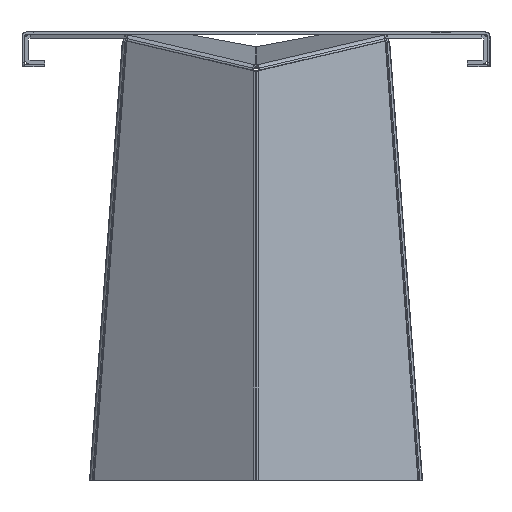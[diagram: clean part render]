
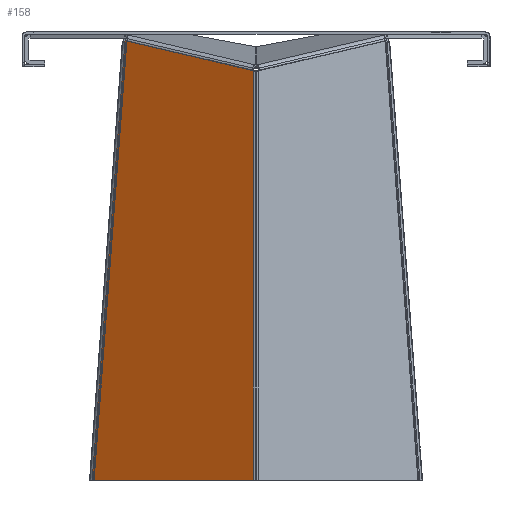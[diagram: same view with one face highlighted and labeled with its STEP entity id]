
A CAD part, left-side view. The second image highlights one B-rep face of the part: STEP entity #158.
In plain terms, the highlighted planar face has unit normal (-0.855, 0.519, 0).
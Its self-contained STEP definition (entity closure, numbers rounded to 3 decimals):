
#158=ADVANCED_FACE('',(#399),#3619,.T.);
#399=FACE_OUTER_BOUND('',#640,.T.);
#640=EDGE_LOOP('',(#1325,#1326,#1327,#1328));
#1325=ORIENTED_EDGE('',*,*,#2276,.F.);
#1326=ORIENTED_EDGE('',*,*,#2275,.F.);
#1327=ORIENTED_EDGE('',*,*,#2277,.F.);
#1328=ORIENTED_EDGE('',*,*,#2173,.F.);
#2173=EDGE_CURVE('',#3282,#3284,#2838,.T.);
#2275=EDGE_CURVE('',#3351,#3352,#2916,.T.);
#2276=EDGE_CURVE('',#3352,#3282,#2917,.T.);
#2277=EDGE_CURVE('',#3284,#3351,#2918,.T.);
#2838=B_SPLINE_CURVE_WITH_KNOTS('',1,(#5897,#5898),.UNSPECIFIED.,.F.,.F.,
(2,2),(-303.327,0.),.UNSPECIFIED.);
#2916=B_SPLINE_CURVE_WITH_KNOTS('',1,(#6388,#6389),.UNSPECIFIED.,.F.,.F.,
(2,2),(6.788,252.987),.UNSPECIFIED.);
#2917=B_SPLINE_CURVE_WITH_KNOTS('',1,(#6390,#6391),.UNSPECIFIED.,.F.,.F.,
(2,2),(6.295,665.729),.UNSPECIFIED.);
#2918=B_SPLINE_CURVE_WITH_KNOTS('',1,(#6392,#6393),.UNSPECIFIED.,.F.,.F.,
(2,2),(1.238,711.728),.UNSPECIFIED.);
#3282=VERTEX_POINT('',#5607);
#3284=VERTEX_POINT('',#5609);
#3351=VERTEX_POINT('',#5676);
#3352=VERTEX_POINT('',#5677);
#3619=PLANE('',#3878);
#3878=AXIS2_PLACEMENT_3D('',#5046,#4081,$);
#4081=DIRECTION('',(-0.855,0.519,0.));
#5046=CARTESIAN_POINT('',(285.449,645.477,-0.657));
#5607=CARTESIAN_POINT('',(125.317,381.671,0.));
#5609=CARTESIAN_POINT('',(282.712,640.967,0.));
#5676=CARTESIAN_POINT('',(250.58,588.032,707.786));
#5677=CARTESIAN_POINT('',(125.317,381.671,659.434));
#5897=CARTESIAN_POINT('',(125.317,381.671,0.));
#5898=CARTESIAN_POINT('',(282.712,640.967,0.));
#6388=CARTESIAN_POINT('',(250.58,588.032,707.786));
#6389=CARTESIAN_POINT('',(125.317,381.671,659.434));
#6390=CARTESIAN_POINT('',(125.317,381.671,659.434));
#6391=CARTESIAN_POINT('',(125.317,381.671,0.));
#6392=CARTESIAN_POINT('',(282.712,640.967,0.));
#6393=CARTESIAN_POINT('',(250.58,588.032,707.786));
